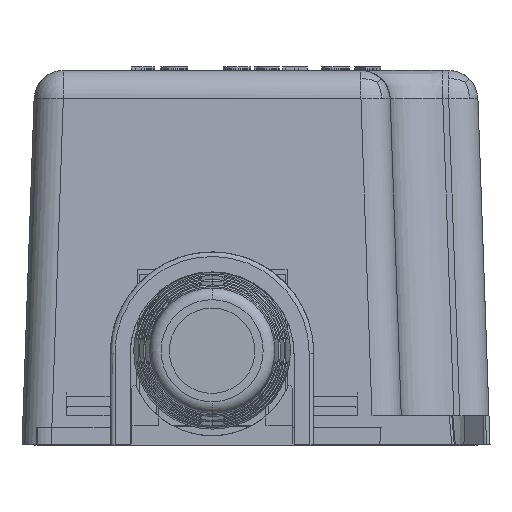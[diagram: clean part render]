
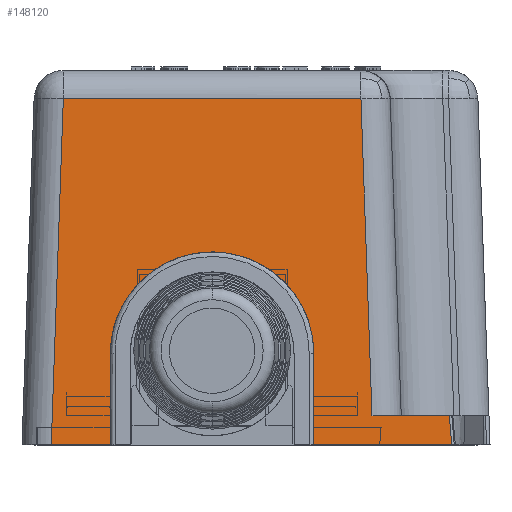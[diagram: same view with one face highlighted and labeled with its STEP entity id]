
A CAD part, left-side view. The second image highlights one B-rep face of the part: STEP entity #148120.
In plain terms, the highlighted planar face has unit normal (-0.999, 0, 0.035).
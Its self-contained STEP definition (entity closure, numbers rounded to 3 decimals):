
#59730=CARTESIAN_POINT('',(6.029,78.076,
0.));
#59740=VERTEX_POINT('',#59730);
#59770=CARTESIAN_POINT('',(6.029,78.076,0.));
#59780=DIRECTION('',(-0.035,0.,
-0.999));
#59790=VECTOR('',#59780,1.);
#59800=LINE('',#59770,#59790);
#59810=CARTESIAN_POINT('',(6.301,78.076,
7.795));
#59820=VERTEX_POINT('',#59810);
#59830=EDGE_CURVE('',#59820,#59740,#59800,.T.);
#60810=CARTESIAN_POINT('',(6.029,60.676,0.));
#60820=VERTEX_POINT('',#60810);
#60850=CARTESIAN_POINT('',(6.029,0.,0.));
#60860=DIRECTION('',(0.,-1.,0.));
#60870=VECTOR('',#60860,1.);
#60880=LINE('',#60850,#60870);
#60890=CARTESIAN_POINT('',(6.029,48.895,0.));
#60900=VERTEX_POINT('',#60890);
#60910=EDGE_CURVE('',#60820,#60900,#60880,.T.);
#147280=CARTESIAN_POINT('',(6.029,45.626,0.));
#147290=DIRECTION('',(-0.999,0.,0.035));
#147300=DIRECTION('',(0.,1.,0.));
#147310=AXIS2_PLACEMENT_3D('',#147280,#147290,#147300);
#147320=PLANE('',#147310);
#147330=CARTESIAN_POINT('',(7.062,0.,29.587));
#147340=DIRECTION('',(0.,1.,0.));
#147350=VECTOR('',#147340,1.);
#147360=LINE('',#147330,#147350);
#147370=CARTESIAN_POINT('',(7.062,56.657,
29.587));
#147380=VERTEX_POINT('',#147370);
#147390=CARTESIAN_POINT('',(7.062,82.094,
29.587));
#147400=VERTEX_POINT('',#147390);
#147410=EDGE_CURVE('',#147380,#147400,#147360,.T.);
#147420=ORIENTED_EDGE('',*,*,#147410,.T.);
#147430=CARTESIAN_POINT('',(6.032,55.627,
0.087));
#147440=DIRECTION('',(0.035,0.035,
0.999));
#147450=VECTOR('',#147440,1.);
#147460=LINE('',#147430,#147450);
#147470=CARTESIAN_POINT('',(6.116,55.711,2.5));
#147480=VERTEX_POINT('',#147470);
#147490=EDGE_CURVE('',#147480,#147380,#147460,.T.);
#147500=ORIENTED_EDGE('',*,*,#147490,.T.);
#147510=CARTESIAN_POINT('',(6.116,0.,2.5));
#147520=DIRECTION('',(0.,-1.,0.));
#147530=VECTOR('',#147520,1.);
#147540=LINE('',#147510,#147530);
#147550=CARTESIAN_POINT('',(6.116,49.106,2.5));
#147560=VERTEX_POINT('',#147550);
#147570=EDGE_CURVE('',#147480,#147560,#147540,.T.);
#147580=ORIENTED_EDGE('',*,*,#147570,.F.);
#147590=CARTESIAN_POINT('',(6.03,48.896,
0.01));
#147600=DIRECTION('',(-0.035,-0.084,
-0.996));
#147610=VECTOR('',#147600,1.);
#147620=LINE('',#147590,#147610);
#147630=EDGE_CURVE('',#147560,#60900,#147620,.T.);
#147640=ORIENTED_EDGE('',*,*,#147630,.F.);
#147650=ORIENTED_EDGE('',*,*,#60910,.T.);
#147660=CARTESIAN_POINT('',(6.029,60.676,0.));
#147670=DIRECTION('',(0.035,0.,
0.999));
#147680=VECTOR('',#147670,1.);
#147690=LINE('',#147660,#147680);
#147700=CARTESIAN_POINT('',(6.301,60.676,
7.795));
#147710=VERTEX_POINT('',#147700);
#147720=EDGE_CURVE('',#60820,#147710,#147690,.T.);
#147730=ORIENTED_EDGE('',*,*,#147720,.F.);
#147740=CARTESIAN_POINT('',(6.301,60.676,
7.795));
#147750=CARTESIAN_POINT('',(6.341,60.676,
8.938));
#147760=CARTESIAN_POINT('',(6.381,60.901,
10.069));
#147770=CARTESIAN_POINT('',(6.454,61.774,
12.175));
#147780=CARTESIAN_POINT('',(6.488,62.419,
13.139));
#147790=CARTESIAN_POINT('',(6.544,64.028,
14.748));
#147800=CARTESIAN_POINT('',(6.567,64.996,
15.394));
#147810=CARTESIAN_POINT('',(6.597,67.096,
16.264));
#147820=CARTESIAN_POINT('',(6.605,68.24,
16.491));
#147830=CARTESIAN_POINT('',(6.605,70.512,
16.491));
#147840=CARTESIAN_POINT('',(6.597,71.655,
16.264));
#147850=CARTESIAN_POINT('',(6.567,73.756,
15.394));
#147860=CARTESIAN_POINT('',(6.544,74.724,
14.748));
#147870=CARTESIAN_POINT('',(6.488,76.333,
13.139));
#147880=CARTESIAN_POINT('',(6.454,76.978,
12.175));
#147890=CARTESIAN_POINT('',(6.381,77.85,
10.069));
#147900=CARTESIAN_POINT('',(6.341,78.076,
8.938));
#147910=CARTESIAN_POINT('',(6.301,78.076,
7.795));
#147920=B_SPLINE_CURVE_WITH_KNOTS('',3,(#147740,#147750,#147760,#147770,
#147780,#147790,#147800,#147810,#147820,#147830,#147840,#147850,#147860,
#147870,#147880,#147890,#147900,#147910),.UNSPECIFIED.,.F.,.F.,(4,2,2,2,
2,2,2,2,4),(0.,0.875,1.75,2.625,3.5,4.375,5.25,6.125,7.),.UNSPECIFIED.);
#147930=EDGE_CURVE('',#147710,#59820,#147920,.T.);
#147940=ORIENTED_EDGE('',*,*,#147930,.F.);
#147950=ORIENTED_EDGE('',*,*,#59830,.F.);
#147960=CARTESIAN_POINT('',(6.029,0.,0.));
#147970=DIRECTION('',(0.,-1.,0.));
#147980=VECTOR('',#147970,1.);
#147990=LINE('',#147960,#147980);
#148000=CARTESIAN_POINT('',(6.029,83.128,
0.));
#148010=VERTEX_POINT('',#148000);
#148020=EDGE_CURVE('',#148010,#59740,#147990,.T.);
#148030=ORIENTED_EDGE('',*,*,#148020,.T.);
#148040=CARTESIAN_POINT('',(6.032,83.124,
0.087));
#148050=DIRECTION('',(-0.035,0.035,
-0.999));
#148060=VECTOR('',#148050,1.);
#148070=LINE('',#148040,#148060);
#148080=EDGE_CURVE('',#147400,#148010,#148070,.T.);
#148090=ORIENTED_EDGE('',*,*,#148080,.T.);
#148100=EDGE_LOOP('',(#148090,#148030,#147950,#147940,#147730,#147650,
#147640,#147580,#147500,#147420));
#148110=FACE_OUTER_BOUND('',#148100,.T.);
#148120=ADVANCED_FACE('',(#148110),#147320,.T.);
